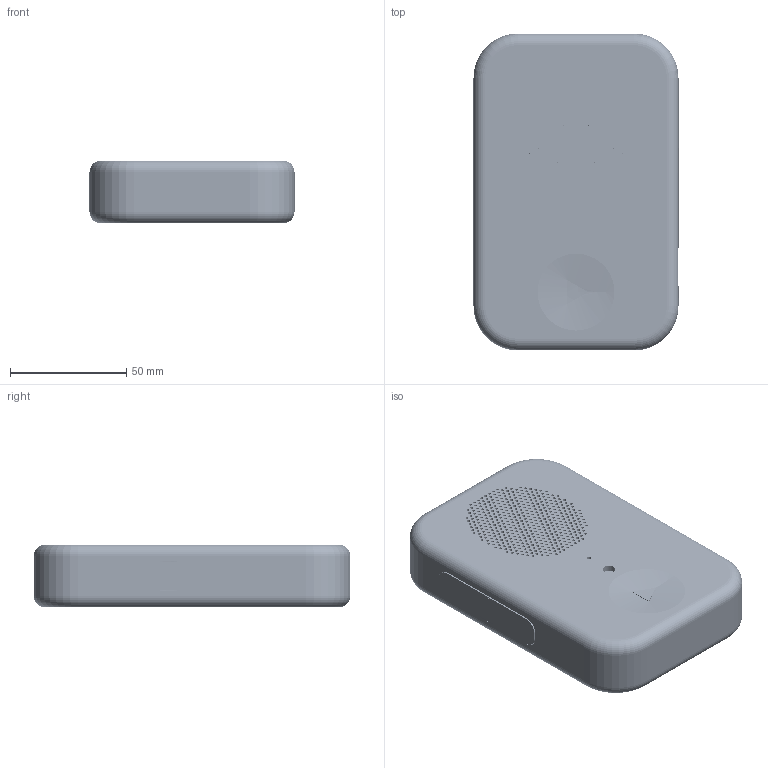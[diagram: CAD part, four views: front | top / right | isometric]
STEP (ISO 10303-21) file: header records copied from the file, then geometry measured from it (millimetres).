
FILE_DESCRIPTION(('Open CASCADE Model'),'2;1');
FILE_NAME('Open CASCADE Shape Model','2026-09-06T12:00:21',('Author'),( 'Open CASCADE'),'Open CASCADE STEP processor 7.7','Open CASCADE 7.7' ,'Unknown');
FILE_SCHEMA(('AUTOMOTIVE_DESIGN { 1 0 10303 214 1 1 1 1 }'));
Length unit declared in the file: millimetre
Products named in the file (134): Walkie_One_02_2_R10_MANUFACTURED_AND_ADHESIVE; 01_front_structural_tub; 01_front_structural_tub_part; 02_rear_structural_cover; 02_rear_structural_cover_part; 03_continuous_silicone_skin; 03_continuous_silicone_skin_part; 04_rear_silicone_service_pad; 04_rear_silicone_service_pad_part; 07_speaker_edge_cradle; 07_speaker_edge_cradle_part; 08_speaker_front_gasket; 08_speaker_front_gasket_part; 09_battery_tray; 09_battery_tray_part; 10_ptt_key; 10_ptt_key_part; 11_ptt_silicone_face; 11_ptt_silicone_face_part; 12_ptt_switch_cradle; 12_ptt_switch_cradle_part; 10_volume_plus_key; 10_volume_plus_key_part; 11_volume_plus_silicone_face; 11_volume_plus_silicone_face_part; 12_volume_plus_switch_cradle; 12_volume_plus_switch_cradle_part; 10_volume_minus_key; 10_volume_minus_key_part; 11_volume_minus_silicone_face; 11_volume_minus_silicone_face_part; 12_volume_minus_switch_cradle; 12_volume_minus_switch_cradle_part; 13_action_plunger_under_membrane; 13_action_plunger_under_membrane_part; 15_front_switch_holder; 15_front_switch_holder_part; 16_rgb_led_support_ring; 16_rgb_led_support_ring_part; 17_microphone_cradle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
Assembly tree (133 placements, depth 4):
  Walkie_One_02_2_R10_MANUFACTURED_AND_ADHESIVE
    Walkie_One_02_2_R10_MANUFACTURED_AND_ADHESIVE
      01_front_structural_tub
        01_front_structural_tub_part
      02_rear_structural_cover
        02_rear_structural_cover_part
      03_continuous_silicone_skin
        03_continuous_silicone_skin_part
      04_rear_silicone_service_pad
        04_rear_silicone_service_pad_part
      07_speaker_edge_cradle
        07_speaker_edge_cradle_part
      08_speaker_front_gasket
        08_speaker_front_gasket_part
      09_battery_tray
        09_battery_tray_part
      10_ptt_key
        10_ptt_key_part
      11_ptt_silicone_face
        11_ptt_silicone_face_part
      12_ptt_switch_cradle
        12_ptt_switch_cradle_part
      10_volume_plus_key
        10_volume_plus_key_part
      11_volume_plus_silicone_face
        11_volume_plus_silicone_face_part
      12_volume_plus_switch_cradle
        12_volume_plus_switch_cradle_part
      10_volume_minus_key
        10_volume_minus_key_part
      11_volume_minus_silicone_face
        11_volume_minus_silicone_face_part
      12_volume_minus_switch_cradle
        12_volume_minus_switch_cradle_part
      13_action_plunger_under_membrane
        13_action_plunger_under_membrane_part
      15_front_switch_holder
        15_front_switch_holder_part
      16_rgb_led_support_ring
        16_rgb_led_support_ring_part
      17_microphone_cradle
        17_microphone_cradle_part
      18_microphone_acoustic_gasket
        18_microphone_acoustic_gasket_part
      30_front_guide_pin_1
        30_front_guide_pin_1_part
      31_front_guide_bush_1
        31_front_guide_bush_1_part
      32_front_stop_spacer_1
        32_front_stop_spacer_1_part
      33_front_return_spring_1
        33_front_return_spring_1_part
      30_front_guide_pin_2
        30_front_guide_pin_2_part
      31_front_guide_bush_2
        31_front_guide_bush_2_part
      32_front_stop_spacer_2
        32_front_stop_spacer_2_part
      33_front_return_spring_2
        33_front_return_spring_2_part
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Bounding box: 88.6 x 136 x 27 mm (x, y, z)
Volume: 110015.8 mm3; surface area: 184186.7 mm2
Topology: 374 solids, 1741 shells, 14785 faces, 44635 edges, 32060 vertices
Faces by surface type: plane 9149, cylinder 3522, bspline 1543, extrusion 425, torus 78, sphere 38, cone 30
Full cylindrical faces by diameter (mm): 0.3 x61, 0.375 x1, 0.5 x1, 0.6 x4, 0.75 x4, 0.813 x5, 0.9 x8, 1 x16, 1.3 x453, 1.5 x8, 1.58 x1, 1.7 x453, 1.8 x3, 2 x30, 2.008 x9, 2.05 x9, 2.8 x4, 4 x27, 5 x1, 5.2 x1, 5.3 x8, 5.4 x2, 6 x1, 6.2 x2, 6.3 x1, 8.4 x1, 33 x1, 34.6 x1, 36.4 x1, 39 x1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
Entity records: 1135448 total; most frequent: CARTESIAN_POINT 319221, DIRECTION 136629, VECTOR 93131, LINE 92706, ORIENTED_EDGE 80157, PCURVE 80157, DEFINITIONAL_REPRESENTATION 80157, EDGE_CURVE 44589
